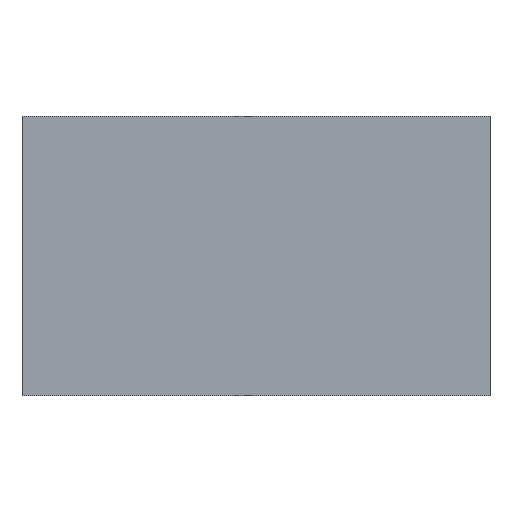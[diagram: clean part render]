
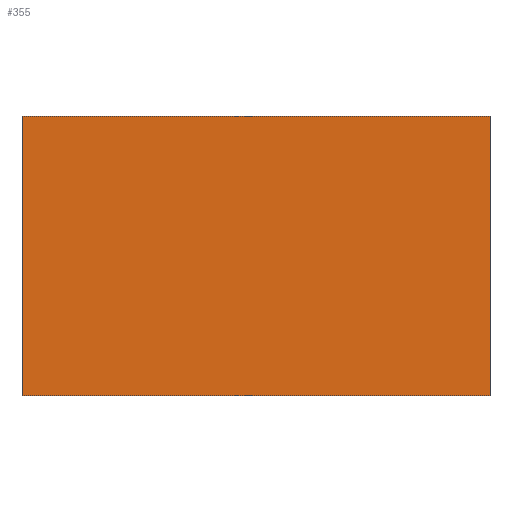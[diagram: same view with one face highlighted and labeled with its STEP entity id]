
A CAD part, top view. The second image highlights one B-rep face of the part: STEP entity #355.
In plain terms, the highlighted planar face has unit normal (0, 0, 1).
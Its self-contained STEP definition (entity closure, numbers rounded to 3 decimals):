
#39=PLANE('',#415);
#65=FACE_OUTER_BOUND('',#101,.T.);
#101=EDGE_LOOP('',(#313,#314,#315,#316));
#115=LINE('',#611,#137);
#118=LINE('',#617,#140);
#121=LINE('',#623,#143);
#124=LINE('',#627,#146);
#137=VECTOR('',#513,10.);
#140=VECTOR('',#518,10.);
#143=VECTOR('',#523,10.);
#146=VECTOR('',#528,10.);
#189=VERTEX_POINT('',#608);
#190=VERTEX_POINT('',#610);
#192=VERTEX_POINT('',#616);
#194=VERTEX_POINT('',#622);
#227=EDGE_CURVE('',#190,#189,#115,.T.);
#230=EDGE_CURVE('',#192,#190,#118,.T.);
#233=EDGE_CURVE('',#194,#192,#121,.T.);
#236=EDGE_CURVE('',#189,#194,#124,.T.);
#313=ORIENTED_EDGE('',*,*,#236,.T.);
#314=ORIENTED_EDGE('',*,*,#233,.T.);
#315=ORIENTED_EDGE('',*,*,#230,.T.);
#316=ORIENTED_EDGE('',*,*,#227,.T.);
#355=ADVANCED_FACE('',(#65),#39,.T.);
#415=AXIS2_PLACEMENT_3D('',#628,#529,#530);
#513=DIRECTION('',(-1.,0.,0.));
#518=DIRECTION('',(0.,1.,0.));
#523=DIRECTION('',(1.,0.,0.));
#528=DIRECTION('',(0.,-1.,0.));
#529=DIRECTION('center_axis',(0.,0.,1.));
#530=DIRECTION('ref_axis',(1.,0.,0.));
#608=CARTESIAN_POINT('',(0.,75.,12.));
#610=CARTESIAN_POINT('',(125.5,75.,12.));
#611=CARTESIAN_POINT('',(125.5,75.,12.));
#616=CARTESIAN_POINT('',(125.5,0.,12.));
#617=CARTESIAN_POINT('',(125.5,0.,12.));
#622=CARTESIAN_POINT('',(0.,0.,12.));
#623=CARTESIAN_POINT('',(0.,0.,12.));
#627=CARTESIAN_POINT('',(0.,75.,12.));
#628=CARTESIAN_POINT('Origin',(62.75,37.5,12.));
